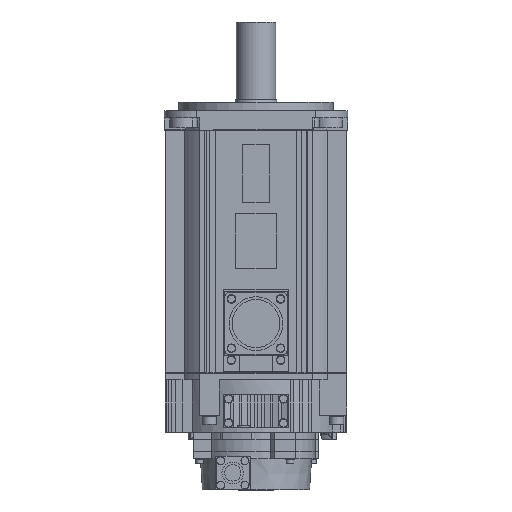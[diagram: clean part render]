
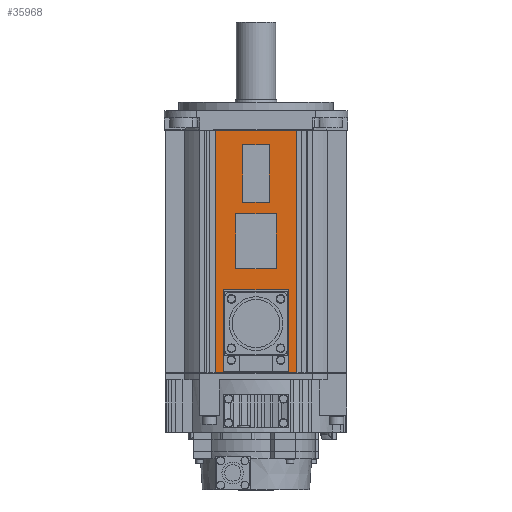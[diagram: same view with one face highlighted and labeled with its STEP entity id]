
A CAD part, front view. The second image highlights one B-rep face of the part: STEP entity #35968.
In plain terms, the highlighted planar face has unit normal (0, -1, 0).
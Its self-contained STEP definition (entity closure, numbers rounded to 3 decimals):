
#12927 = LINE ( 'NONE', #12992, #12991 ) ;
#12954 = CARTESIAN_POINT ( 'NONE',  ( -29., -64.5, -186. ) ) ;
#12989 = CARTESIAN_POINT ( 'NONE',  ( -14.5, -64.5, -73. ) ) ;
#12990 = DIRECTION ( 'NONE',  ( -1., 0., 0. ) ) ;
#12991 = VECTOR ( 'NONE', #12990, 1000. ) ;
#12992 = CARTESIAN_POINT ( 'NONE',  ( -14.5, -64.5, -73. ) ) ;
#13165 = CARTESIAN_POINT ( 'NONE',  ( 14.5, -64.5, -73. ) ) ;
#13205 = CARTESIAN_POINT ( 'NONE',  ( -23., -64.5, -127. ) ) ;
#13207 = CARTESIAN_POINT ( 'NONE',  ( 14.5, -64.5, -112. ) ) ;
#13212 = DIRECTION ( 'NONE',  ( 0., 0., -1. ) ) ;
#13213 = DIRECTION ( 'NONE',  ( 0., -1., 0. ) ) ;
#13214 = CARTESIAN_POINT ( 'NONE',  ( 40., -64.5, -271.44 ) ) ;
#13215 = AXIS2_PLACEMENT_3D ( 'NONE', #13214, #13213, #13212 ) ;
#13216 = PLANE ( 'NONE',  #13215 ) ;
#13217 = FACE_BOUND ( 'NONE', #36050, .T. ) ;
#13218 = FACE_BOUND ( 'NONE', #35995, .T. ) ;
#13219 = FACE_OUTER_BOUND ( 'NONE', #35759, .T. ) ;
#13220 = FACE_BOUND ( 'NONE', #31104, .T. ) ;
#13221 = DIRECTION ( 'NONE',  ( 0., 0., 1. ) ) ;
#13222 = VECTOR ( 'NONE', #13221, 1000. ) ;
#13223 = CARTESIAN_POINT ( 'NONE',  ( 14.5, -64.5, -112. ) ) ;
#13224 = LINE ( 'NONE', #13223, #13222 ) ;
#13260 = DIRECTION ( 'NONE',  ( 0., 0., -1. ) ) ;
#13261 = VECTOR ( 'NONE', #13260, 1000. ) ;
#13262 = CARTESIAN_POINT ( 'NONE',  ( -23., -64.5, -127. ) ) ;
#13263 = LINE ( 'NONE', #13262, #13261 ) ;
#13286 = DIRECTION ( 'NONE',  ( 1., 0., 0. ) ) ;
#13287 = VECTOR ( 'NONE', #13286, 1000. ) ;
#13288 = CARTESIAN_POINT ( 'NONE',  ( 29., -64.5, -14. ) ) ;
#13289 = LINE ( 'NONE', #13288, #13287 ) ;
#13299 = CARTESIAN_POINT ( 'NONE',  ( 29., -64.5, -271.44 ) ) ;
#13300 = LINE ( 'NONE', #13299, #13368 ) ;
#13301 = CARTESIAN_POINT ( 'NONE',  ( 29., -64.5, -186. ) ) ;
#13313 = CARTESIAN_POINT ( 'NONE',  ( -29., -64.5, -14. ) ) ;
#13319 = DIRECTION ( 'NONE',  ( -1., 0., 0. ) ) ;
#13320 = VECTOR ( 'NONE', #13319, 1000. ) ;
#13321 = CARTESIAN_POINT ( 'NONE',  ( 40., -64.5, -186. ) ) ;
#13322 = LINE ( 'NONE', #13321, #13320 ) ;
#13323 = CARTESIAN_POINT ( 'NONE',  ( 29., -64.5, -14. ) ) ;
#13336 = DIRECTION ( 'NONE',  ( 0., 0., 1. ) ) ;
#13337 = VECTOR ( 'NONE', #13336, 1000. ) ;
#13338 = CARTESIAN_POINT ( 'NONE',  ( -29., -64.5, -271.44 ) ) ;
#13339 = LINE ( 'NONE', #13338, #13337 ) ;
#13367 = DIRECTION ( 'NONE',  ( 0., 0., 1. ) ) ;
#13368 = VECTOR ( 'NONE', #13367, 1000. ) ;
#13377 = CARTESIAN_POINT ( 'NONE',  ( -9.25, -64.5, -65. ) ) ;
#13407 = DIRECTION ( 'NONE',  ( 1., 0., 0. ) ) ;
#13408 = VECTOR ( 'NONE', #13407, 1000. ) ;
#13409 = CARTESIAN_POINT ( 'NONE',  ( -9.25, -64.5, -65. ) ) ;
#13410 = LINE ( 'NONE', #13409, #13408 ) ;
#13421 = CARTESIAN_POINT ( 'NONE',  ( 9.25, -64.5, -65. ) ) ;
#13445 = DIRECTION ( 'NONE',  ( 1., 0., 0. ) ) ;
#13446 = VECTOR ( 'NONE', #13445, 1000. ) ;
#13447 = CARTESIAN_POINT ( 'NONE',  ( -14.5, -64.5, -112. ) ) ;
#13448 = LINE ( 'NONE', #13447, #13446 ) ;
#13453 = CARTESIAN_POINT ( 'NONE',  ( -14.5, -64.5, -112. ) ) ;
#13459 = DIRECTION ( 'NONE',  ( 0., 0., -1. ) ) ;
#13460 = VECTOR ( 'NONE', #13459, 1000. ) ;
#13461 = CARTESIAN_POINT ( 'NONE',  ( -9.25, -64.5, -65. ) ) ;
#13462 = LINE ( 'NONE', #13461, #13460 ) ;
#13492 = DIRECTION ( 'NONE',  ( 0., 0., -1. ) ) ;
#13493 = VECTOR ( 'NONE', #13492, 1000. ) ;
#13494 = CARTESIAN_POINT ( 'NONE',  ( -14.5, -64.5, -112. ) ) ;
#13495 = LINE ( 'NONE', #13494, #13493 ) ;
#13633 = CARTESIAN_POINT ( 'NONE',  ( -23., -64.5, -185. ) ) ;
#13634 = DIRECTION ( 'NONE',  ( 0., 0., 1. ) ) ;
#13635 = VECTOR ( 'NONE', #13634, 1000. ) ;
#13636 = CARTESIAN_POINT ( 'NONE',  ( 23., -64.5, -127. ) ) ;
#13637 = LINE ( 'NONE', #13636, #13635 ) ;
#13649 = CARTESIAN_POINT ( 'NONE',  ( 23., -64.5, -127. ) ) ;
#13685 = DIRECTION ( 'NONE',  ( -1., 0., 0. ) ) ;
#13686 = VECTOR ( 'NONE', #13685, 1000. ) ;
#13687 = CARTESIAN_POINT ( 'NONE',  ( 23., -64.5, -127. ) ) ;
#13688 = LINE ( 'NONE', #13687, #13686 ) ;
#13903 = DIRECTION ( 'NONE',  ( 0., 0., 1. ) ) ;
#13904 = VECTOR ( 'NONE', #13903, 1000. ) ;
#13905 = CARTESIAN_POINT ( 'NONE',  ( 9.25, -64.5, -65. ) ) ;
#13906 = LINE ( 'NONE', #13905, #13904 ) ;
#13911 = CARTESIAN_POINT ( 'NONE',  ( 9.25, -64.5, -24. ) ) ;
#13912 = DIRECTION ( 'NONE',  ( -1., 0., 0. ) ) ;
#13913 = VECTOR ( 'NONE', #13912, 1000. ) ;
#13914 = CARTESIAN_POINT ( 'NONE',  ( -9.25, -64.5, -24. ) ) ;
#13915 = LINE ( 'NONE', #13914, #13913 ) ;
#13935 = CARTESIAN_POINT ( 'NONE',  ( -9.25, -64.5, -24. ) ) ;
#14023 = CARTESIAN_POINT ( 'NONE',  ( 23., -64.5, -185. ) ) ;
#14035 = DIRECTION ( 'NONE',  ( 1., 0., 0. ) ) ;
#14036 = VECTOR ( 'NONE', #14035, 1000. ) ;
#14037 = CARTESIAN_POINT ( 'NONE',  ( 23., -64.5, -185. ) ) ;
#14038 = LINE ( 'NONE', #14037, #14036 ) ;
#31104 = EDGE_LOOP ( 'NONE', ( #35970, #36093, #36100, #35850 ) ) ;
#35566 = VERTEX_POINT ( 'NONE', #12954 ) ;
#35622 = ORIENTED_EDGE ( 'NONE', *, *, #36046, .F. ) ;
#35759 = EDGE_LOOP ( 'NONE', ( #35622, #36029, #36036, #35996 ) ) ;
#35848 = EDGE_CURVE ( 'NONE', #35959, #35849, #12927, .T. ) ;
#35849 = VERTEX_POINT ( 'NONE', #12989 ) ;
#35850 = ORIENTED_EDGE ( 'NONE', *, *, #35848, .F. ) ;
#35959 = VERTEX_POINT ( 'NONE', #13165 ) ;
#35966 = EDGE_CURVE ( 'NONE', #35971, #35959, #13224, .T. ) ;
#35968 = ADVANCED_FACE ( 'NONE', ( #13220, #13219, #13218, #13217 ), #13216, .T. ) ;
#35970 = ORIENTED_EDGE ( 'NONE', *, *, #35966, .F. ) ;
#35971 = VERTEX_POINT ( 'NONE', #13207 ) ;
#35977 = VERTEX_POINT ( 'NONE', #13205 ) ;
#35983 = EDGE_CURVE ( 'NONE', #35977, #36215, #13263, .T. ) ;
#35994 = ORIENTED_EDGE ( 'NONE', *, *, #35983, .F. ) ;
#35995 = EDGE_LOOP ( 'NONE', ( #35994, #36218, #36208, #36414 ) ) ;
#35996 = ORIENTED_EDGE ( 'NONE', *, *, #36003, .F. ) ;
#36003 = EDGE_CURVE ( 'NONE', #36027, #36021, #13289, .T. ) ;
#36021 = VERTEX_POINT ( 'NONE', #13323 ) ;
#36023 = EDGE_CURVE ( 'NONE', #36034, #35566, #13322, .T. ) ;
#36027 = VERTEX_POINT ( 'NONE', #13313 ) ;
#36029 = ORIENTED_EDGE ( 'NONE', *, *, #36023, .F. ) ;
#36034 = VERTEX_POINT ( 'NONE', #13301 ) ;
#36035 = EDGE_CURVE ( 'NONE', #36034, #36021, #13300, .T. ) ;
#36036 = ORIENTED_EDGE ( 'NONE', *, *, #36035, .T. ) ;
#36046 = EDGE_CURVE ( 'NONE', #35566, #36027, #13339, .T. ) ;
#36050 = EDGE_LOOP ( 'NONE', ( #36063, #36083, #36325, #36346 ) ) ;
#36063 = ORIENTED_EDGE ( 'NONE', *, *, #36080, .F. ) ;
#36064 = VERTEX_POINT ( 'NONE', #13377 ) ;
#36074 = VERTEX_POINT ( 'NONE', #13421 ) ;
#36080 = EDGE_CURVE ( 'NONE', #36064, #36074, #13410, .T. ) ;
#36083 = ORIENTED_EDGE ( 'NONE', *, *, #36085, .F. ) ;
#36085 = EDGE_CURVE ( 'NONE', #36368, #36064, #13462, .T. ) ;
#36088 = VERTEX_POINT ( 'NONE', #13453 ) ;
#36092 = EDGE_CURVE ( 'NONE', #36088, #35971, #13448, .T. ) ;
#36093 = ORIENTED_EDGE ( 'NONE', *, *, #36092, .F. ) ;
#36097 = EDGE_CURVE ( 'NONE', #35849, #36088, #13495, .T. ) ;
#36100 = ORIENTED_EDGE ( 'NONE', *, *, #36097, .F. ) ;
#36207 = VERTEX_POINT ( 'NONE', #13649 ) ;
#36208 = ORIENTED_EDGE ( 'NONE', *, *, #36213, .F. ) ;
#36213 = EDGE_CURVE ( 'NONE', #36429, #36207, #13637, .T. ) ;
#36215 = VERTEX_POINT ( 'NONE', #13633 ) ;
#36218 = ORIENTED_EDGE ( 'NONE', *, *, #36221, .F. ) ;
#36221 = EDGE_CURVE ( 'NONE', #36207, #35977, #13688, .T. ) ;
#36325 = ORIENTED_EDGE ( 'NONE', *, *, #36345, .F. ) ;
#36345 = EDGE_CURVE ( 'NONE', #36348, #36368, #13915, .T. ) ;
#36346 = ORIENTED_EDGE ( 'NONE', *, *, #36352, .F. ) ;
#36348 = VERTEX_POINT ( 'NONE', #13911 ) ;
#36352 = EDGE_CURVE ( 'NONE', #36074, #36348, #13906, .T. ) ;
#36368 = VERTEX_POINT ( 'NONE', #13935 ) ;
#36414 = ORIENTED_EDGE ( 'NONE', *, *, #36423, .F. ) ;
#36423 = EDGE_CURVE ( 'NONE', #36215, #36429, #14038, .T. ) ;
#36429 = VERTEX_POINT ( 'NONE', #14023 ) ;
